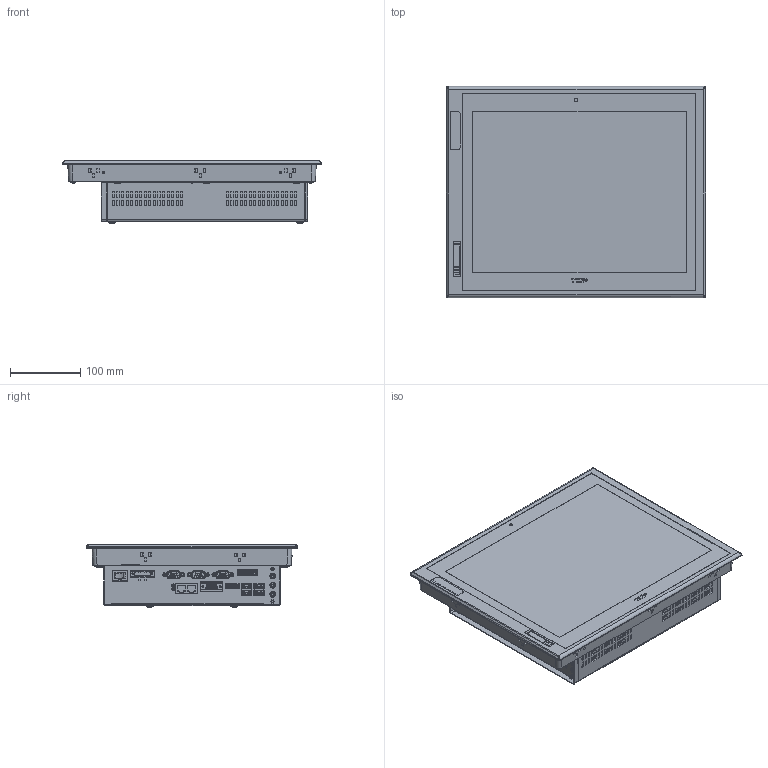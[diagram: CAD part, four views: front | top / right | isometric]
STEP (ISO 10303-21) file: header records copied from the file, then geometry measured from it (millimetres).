
FILE_DESCRIPTION((''),'2;1');
FILE_NAME('TOPPPC15_1_2','2018-07-19T',('bckim'),(''),'CREO PARAMETRIC BY PTC INC, 2016260','CREO PARAMETRIC BY PTC INC, 2016260','');
FILE_SCHEMA(('CONFIG_CONTROL_DESIGN'));
Products named in the file (1): TOPPPC15_1_2
Bounding box: 370 x 301 x 89.85 mm (x, y, z)
Volume: 7011329.6 mm3; surface area: 701416.4 mm2
Topology: 5 solids, 6 shells, 7185 faces, 20850 edges, 13557 vertices
Faces by surface type: plane 5202, cylinder 1470, torus 292, bspline 81, cone 69, sphere 46, extrusion 25
Entity records: 249266 total; most frequent: CARTESIAN_POINT 60081, ORIENTED_EDGE 41620, DIRECTION 36173, EDGE_CURVE 20810, VECTOR 15443, LINE 15418, VERTEX_POINT 13559, AXIS2_PLACEMENT_3D 10365
